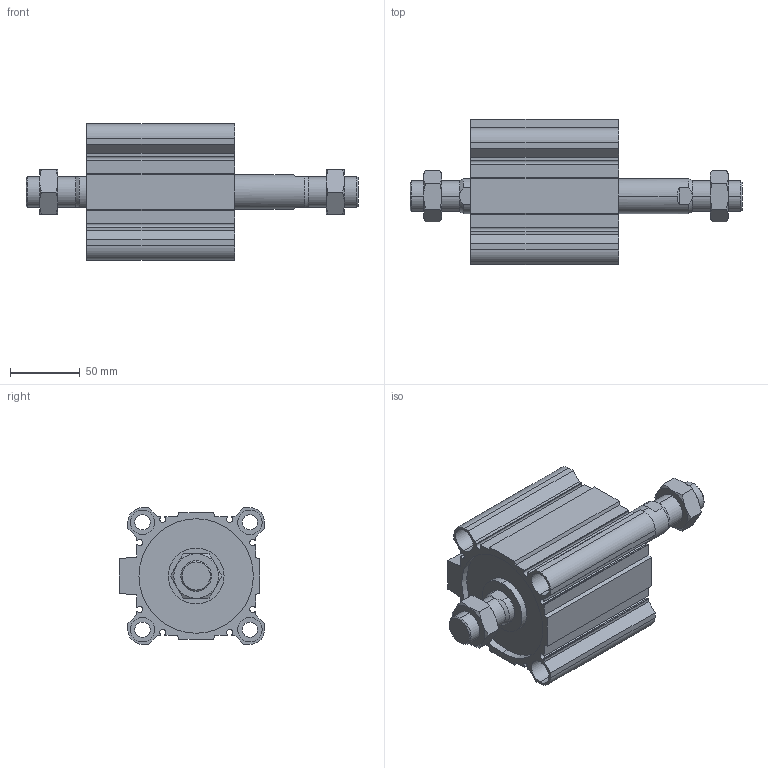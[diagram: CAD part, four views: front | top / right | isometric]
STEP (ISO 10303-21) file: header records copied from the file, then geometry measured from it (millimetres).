
FILE_DESCRIPTION (( 'STEP AP203' ), '1' );
FILE_NAME ('CCMB80-45M-P.STEP', '2020-08-10T11:55:17', ( '' ), ( '' ), 'SwSTEP 2.0', 'SolidWorks 2019', '' );
FILE_SCHEMA (( 'CONFIG_CONTROL_DESIGN' ));
Length unit declared in the file: millimetre
Products named in the file (1): CCMB80-45M-P
Bounding box: 238 x 104 x 98 mm (x, y, z)
Volume: 652174.5 mm3; surface area: 162897 mm2
Topology: 4 solids, 4 shells, 228 faces, 558 edges, 356 vertices
Faces by surface type: plane 106, cylinder 78, cone 44
Entity records: 7569 total; most frequent: CARTESIAN_POINT 2055, DIRECTION 1148, ORIENTED_EDGE 1116, EDGE_CURVE 558, AXIS2_PLACEMENT_3D 425, VERTEX_POINT 356, VECTOR 298, LINE 298
